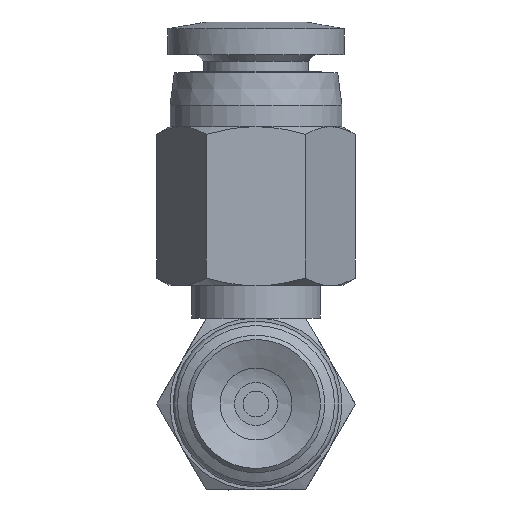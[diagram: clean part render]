
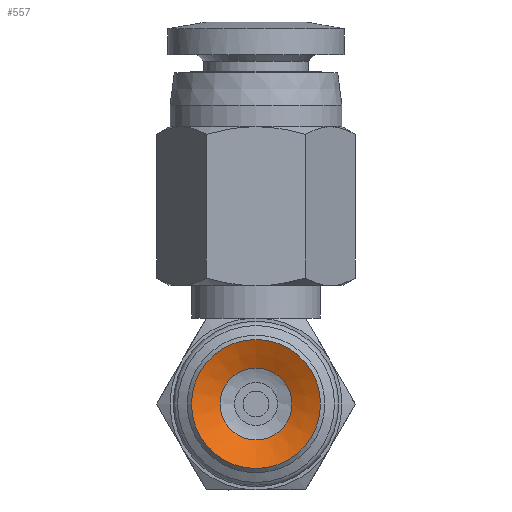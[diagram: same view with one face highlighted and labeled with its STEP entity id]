
A CAD part, front view. The second image highlights one B-rep face of the part: STEP entity #557.
In plain terms, the highlighted conical face has half-angle 64.998 degrees and reference radius 1.285 mm.
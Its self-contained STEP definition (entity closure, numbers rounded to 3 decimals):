
#557=ADVANCED_FACE('',(#863,#864),#865,.F.);
#863=FACE_BOUND('',#1288,.T.);
#864=FACE_OUTER_BOUND('',#1289,.T.);
#865=CONICAL_SURFACE('',#1290,1.285,1.134);
#1288=EDGE_LOOP('',(#2310));
#1289=EDGE_LOOP('',(#2311));
#1290=AXIS2_PLACEMENT_3D('',#2312,#2313,#2314);
#2310=ORIENTED_EDGE('',*,*,#2835,.T.);
#2311=ORIENTED_EDGE('',*,*,#2836,.T.);
#2312=CARTESIAN_POINT('',(0.0,0.8,0.0));
#2313=DIRECTION('',(-0.0,-1.0,0.));
#2314=DIRECTION('',(0.0,0.,-1.0));
#2835=EDGE_CURVE('',#3237,#3237,#3238,.T.);
#2836=EDGE_CURVE('',#3239,#3239,#3240,.T.);
#3237=VERTEX_POINT('',#4075);
#3238=CIRCLE('',#4076,1.67);
#3239=VERTEX_POINT('',#4077);
#3240=CIRCLE('',#4078,3.);
#4075=CARTESIAN_POINT('',(0.0,0.62,-1.67));
#4076=AXIS2_PLACEMENT_3D('',#4780,#4781,#4782);
#4077=CARTESIAN_POINT('',(0.0,0.,-3.));
#4078=AXIS2_PLACEMENT_3D('',#4783,#4784,#4785);
#4780=CARTESIAN_POINT('',(0.0,0.62,0.0));
#4781=DIRECTION('',(0.0,1.0,0.));
#4782=DIRECTION('',(0.0,0.,-1.0));
#4783=CARTESIAN_POINT('',(0.0,0.0,0.0));
#4784=DIRECTION('',(0.0,-1.0,0.));
#4785=DIRECTION('',(0.0,0.,-1.0));
